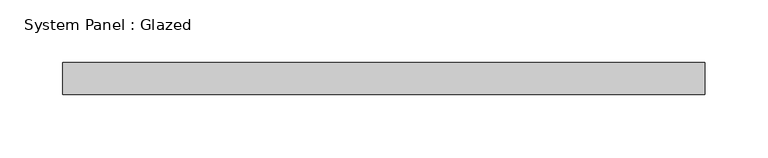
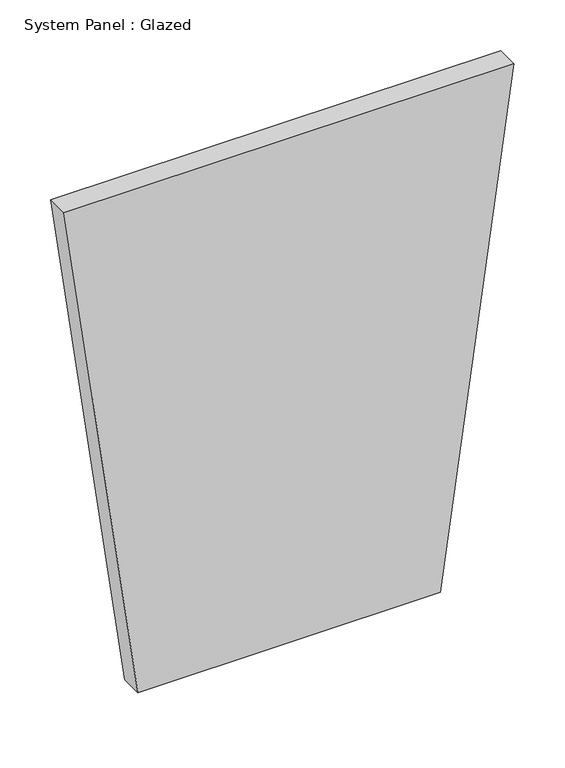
"""IFC4 building model written with IfcOpenShell, lengths in millimetres: plate geometry, System Panel : Glazed."""

from ifc_helpers import new_model, si_unit, frame, origin, place, context, project, spatial, polyline, outline, extrude, source, transform, mapped, element, save


def system_panel_glazed_13021561(model_context):
    return source(origin(), model_context, "Body", "SweptSolid", [
        extrude(outline(polyline([(0.0, -171.3442302), (0.0, 171.3442302), (603.850318, 254.8723899), (603.850318, -254.8723899), (0.0, -171.3442302)])), frame((0.0, -44.45, 0.0), z_axis=(0.0, 1.0, 0.0), x_axis=(0.0, 0.0, 1.0)), (0.0, 0.0, 1.0), 25.4),
    ])


if __name__ == "__main__":
    model = new_model("IFC4")
    model_context = context("Model", 3, world=origin())
    ifc_project = project(units=[si_unit("LENGTHUNIT", "METRE", prefix="MILLI")], contexts=[model_context])
    site = spatial("IfcSite", under=ifc_project)
    building = spatial("IfcBuilding", under=site)
    placement = place(None, origin())
    system_panel_glazed_shape = system_panel_glazed_13021561(model_context)
    element("IfcPlate", 1, ObjectType="System Panel : Glazed", at=placement, inside=building, context=model_context, shape_type="MappedRepresentation", body=[
        mapped(system_panel_glazed_shape, transform((0.0, 0.0, 0.0), x_axis=(1.0, 0.0, 0.0), y_axis=(0.0, 1.0, 0.0), z_axis=(0.0, 0.0, 1.0))),
    ])
    save(model, "model.ifc")
